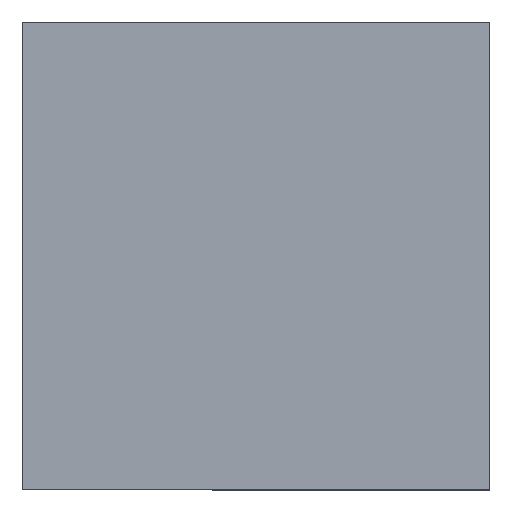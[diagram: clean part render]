
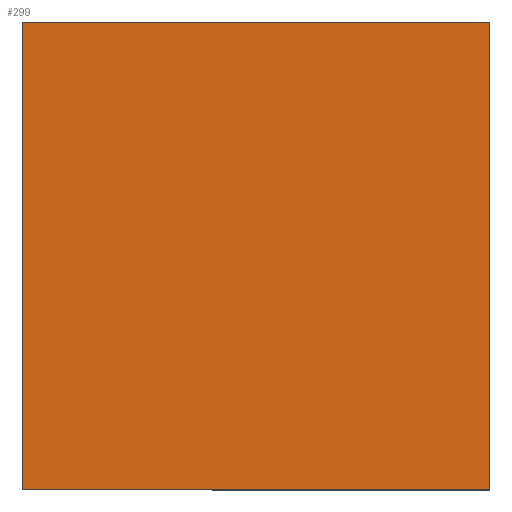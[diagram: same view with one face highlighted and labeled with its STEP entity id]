
A CAD part, top view. The second image highlights one B-rep face of the part: STEP entity #299.
In plain terms, the highlighted planar face has unit normal (0, 0, 1).
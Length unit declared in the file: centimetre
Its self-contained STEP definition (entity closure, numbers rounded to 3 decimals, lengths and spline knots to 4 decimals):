
#9 = VERTEX_POINT ( 'NONE', #423 ) ;
#15 = EDGE_CURVE ( 'NONE', #491, #175, #59, .T. ) ;
#22 = LINE ( 'NONE', #146, #172 ) ;
#52 = VERTEX_POINT ( 'NONE', #220 ) ;
#59 = LINE ( 'NONE', #297, #77 ) ;
#60 = EDGE_CURVE ( 'NONE', #52, #491, #262, .T. ) ;
#77 = VECTOR ( 'NONE', #429, 100. ) ;
#83 = EDGE_CURVE ( 'NONE', #175, #9, #22, .T. ) ;
#85 = AXIS2_PLACEMENT_3D ( 'NONE', #518, #401, #356 ) ;
#103 = DIRECTION ( 'NONE',  ( 0., -1., 0. ) ) ;
#146 = CARTESIAN_POINT ( 'NONE',  ( 1000., 1000., 1000. ) ) ;
#172 = VECTOR ( 'NONE', #306, 100. ) ;
#175 = VERTEX_POINT ( 'NONE', #232 ) ;
#178 = VECTOR ( 'NONE', #291, 100. ) ;
#196 = PLANE ( 'NONE',  #85 ) ;
#199 = EDGE_LOOP ( 'NONE', ( #402, #433, #456, #282 ) ) ;
#203 = LINE ( 'NONE', #294, #178 ) ;
#211 = VECTOR ( 'NONE', #103, 100. ) ;
#220 = CARTESIAN_POINT ( 'NONE',  ( 0., 1000., 1000. ) ) ;
#232 = CARTESIAN_POINT ( 'NONE',  ( 1000., 0., 1000. ) ) ;
#236 = FACE_OUTER_BOUND ( 'NONE', #199, .T. ) ;
#262 = LINE ( 'NONE', #342, #211 ) ;
#282 = ORIENTED_EDGE ( 'NONE', *, *, #347, .T. ) ;
#291 = DIRECTION ( 'NONE',  ( -1., 0., 0. ) ) ;
#294 = CARTESIAN_POINT ( 'NONE',  ( 0., 1000., 1000. ) ) ;
#297 = CARTESIAN_POINT ( 'NONE',  ( 0., 0., 1000. ) ) ;
#299 = ADVANCED_FACE ( 'NONE', ( #236 ), #196, .T. ) ;
#306 = DIRECTION ( 'NONE',  ( 0., 1., 0. ) ) ;
#342 = CARTESIAN_POINT ( 'NONE',  ( 0., 1000., 1000. ) ) ;
#344 = CARTESIAN_POINT ( 'NONE',  ( 0., 0., 1000. ) ) ;
#347 = EDGE_CURVE ( 'NONE', #9, #52, #203, .T. ) ;
#356 = DIRECTION ( 'NONE',  ( 1., 0., 0. ) ) ;
#401 = DIRECTION ( 'NONE',  ( 0., 0., 1. ) ) ;
#402 = ORIENTED_EDGE ( 'NONE', *, *, #60, .T. ) ;
#423 = CARTESIAN_POINT ( 'NONE',  ( 1000., 1000., 1000. ) ) ;
#429 = DIRECTION ( 'NONE',  ( 1., 0., 0. ) ) ;
#433 = ORIENTED_EDGE ( 'NONE', *, *, #15, .T. ) ;
#456 = ORIENTED_EDGE ( 'NONE', *, *, #83, .T. ) ;
#491 = VERTEX_POINT ( 'NONE', #344 ) ;
#518 = CARTESIAN_POINT ( 'NONE',  ( 0., 0., 1000. ) ) ;
